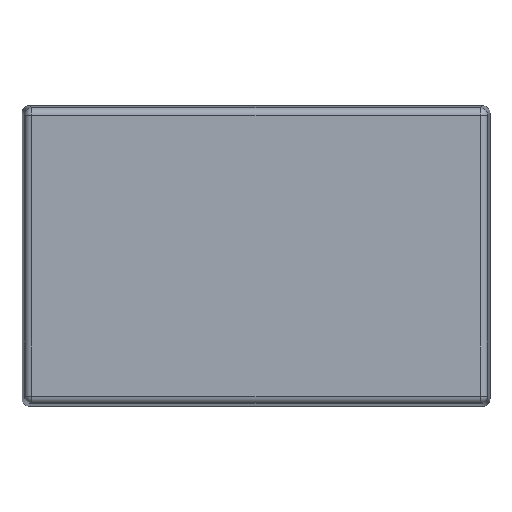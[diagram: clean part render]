
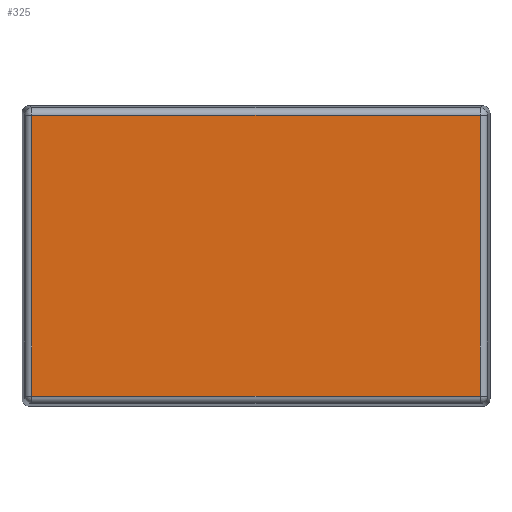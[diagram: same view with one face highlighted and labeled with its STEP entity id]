
A CAD part, top view. The second image highlights one B-rep face of the part: STEP entity #325.
In plain terms, the highlighted planar face has unit normal (0, 0, 1).
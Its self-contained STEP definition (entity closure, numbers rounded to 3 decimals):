
#325=ADVANCED_FACE('',(#449),#412,.F.);
#412=PLANE('',#1063);
#449=FACE_OUTER_BOUND('',#504,.T.);
#504=EDGE_LOOP('',(#658,#659,#660,#661));
#658=ORIENTED_EDGE('',*,*,#936,.T.);
#659=ORIENTED_EDGE('',*,*,#937,.T.);
#660=ORIENTED_EDGE('',*,*,#938,.T.);
#661=ORIENTED_EDGE('',*,*,#939,.T.);
#854=VERTEX_POINT('',#1614);
#855=VERTEX_POINT('',#1615);
#856=VERTEX_POINT('',#1617);
#857=VERTEX_POINT('',#1619);
#936=EDGE_CURVE('',#854,#855,#1034,.T.);
#937=EDGE_CURVE('',#855,#856,#1035,.T.);
#938=EDGE_CURVE('',#856,#857,#1036,.T.);
#939=EDGE_CURVE('',#857,#854,#1037,.T.);
#1034=LINE('',#1613,#1054);
#1035=LINE('',#1616,#1055);
#1036=LINE('',#1618,#1056);
#1037=LINE('',#1620,#1057);
#1054=VECTOR('',#1250,1.);
#1055=VECTOR('',#1251,1.);
#1056=VECTOR('',#1252,1.);
#1057=VECTOR('',#1253,1.);
#1063=AXIS2_PLACEMENT_3D('',#1621,#1254,#1255);
#1250=DIRECTION('',(1.,0.,0.));
#1251=DIRECTION('',(0.,1.,0.));
#1252=DIRECTION('',(-1.,0.,0.));
#1253=DIRECTION('',(0.,-1.,0.));
#1254=DIRECTION('',(0.,0.,-1.));
#1255=DIRECTION('',(-1.,0.,0.));
#1613=CARTESIAN_POINT('',(15.622,-9.481,10.2));
#1614=CARTESIAN_POINT('',(-15.131,-9.481,10.2));
#1615=CARTESIAN_POINT('',(15.131,-9.481,10.2));
#1616=CARTESIAN_POINT('',(15.131,9.972,10.2));
#1617=CARTESIAN_POINT('',(15.131,9.481,10.2));
#1618=CARTESIAN_POINT('',(-15.622,9.481,10.2));
#1619=CARTESIAN_POINT('',(-15.131,9.481,10.2));
#1620=CARTESIAN_POINT('',(-15.131,-9.972,10.2));
#1621=CARTESIAN_POINT('',(0.,0.,10.2));
